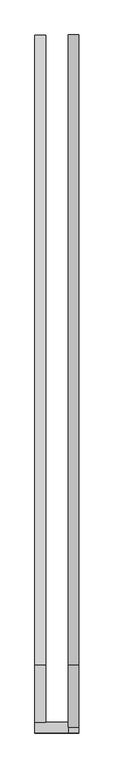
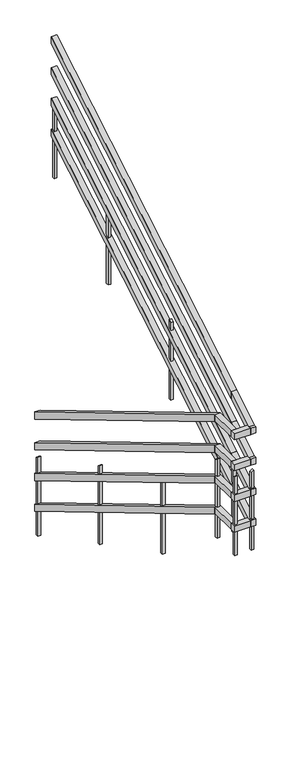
"""IFC4 building model written with IfcOpenShell, lengths in millimetres: railing geometry, RL780-금속재 난간."""

from ifc_helpers import new_model, si_unit, frame, origin, place, context, project, spatial, polyline, outline, extrude, faceted_brep, source, transform, mapped, element, save


def railing_63d092a0(model_context):
    return source(origin(), model_context, "Body", "SolidModel", [
        faceted_brep([(1249.8430136, 5200.0, 5271.4285714), (1299.8430136, 5200.0, 5271.4285714), (1299.8430136, 5200.0, 5201.5491284), (1249.8430136, 5200.0, 5201.5491284), (1249.8430136, 2328.5714286, 6985.7142857), (1249.8430136, 2328.5714286, 6915.8348427), (1299.8430136, 2328.5714286, 6915.8348427), (1299.8430136, 2328.5714286, 6985.7142857)], [[[0, 1, 2, 3]], [[4, 5, 6, 7]], [[1, 0, 4, 7]], [[2, 1, 7, 6]], [[3, 2, 6, 5]], [[0, 3, 5, 4]]]),
        faceted_brep([(1249.8430136, 5200.0, 4971.4285714), (1299.8430136, 5200.0, 4971.4285714), (1299.8430136, 5200.0, 4901.5491284), (1249.8430136, 5200.0, 4901.5491284), (1249.8430136, 2328.5714286, 6685.7142857), (1249.8430136, 2328.5714286, 6615.8348427), (1299.8430136, 2328.5714286, 6615.8348427), (1299.8430136, 2328.5714286, 6685.7142857)], [[[0, 1, 2, 3]], [[4, 5, 6, 7]], [[1, 0, 4, 7]], [[2, 1, 7, 6]], [[3, 2, 6, 5]], [[0, 3, 5, 4]]]),
        faceted_brep([(1249.8430136, 5200.0, 4671.4285714), (1299.8430136, 5200.0, 4671.4285714), (1299.8430136, 5200.0, 4601.5491284), (1249.8430136, 5200.0, 4601.5491284), (1249.8430136, 2328.5714286, 6385.7142857), (1249.8430136, 2328.5714286, 6315.8348427), (1299.8430136, 2328.5714286, 6315.8348427), (1299.8430136, 2328.5714286, 6385.7142857)], [[[0, 1, 2, 3]], [[4, 5, 6, 7]], [[1, 0, 4, 7]], [[2, 1, 7, 6]], [[3, 2, 6, 5]], [[0, 3, 5, 4]]]),
        faceted_brep([(1249.8430136, 5200.0, 4371.4285714), (1299.8430136, 5200.0, 4371.4285714), (1299.8430136, 5200.0, 4301.5491284), (1249.8430136, 5200.0, 4301.5491284), (1249.8430136, 2328.5714286, 6085.7142857), (1249.8430136, 2328.5714286, 6015.8348427), (1299.8430136, 2328.5714286, 6015.8348427), (1299.8430136, 2328.5714286, 6085.7142857)], [[[0, 1, 2, 3]], [[4, 5, 6, 7]], [[1, 0, 4, 7]], [[2, 1, 7, 6]], [[3, 2, 6, 5]], [[0, 3, 5, 4]]]),
        faceted_brep([(1249.8430136, 2328.5714286, 6985.7142857), (1299.8430136, 2328.5714286, 6985.7142857), (1299.8430136, 2328.5714286, 6925.7142857), (1249.8430136, 2328.5714286, 6925.7142857), (1249.8430136, 2071.0869752, 6985.7142857), (1249.8430136, 2071.0869752, 6925.7142857), (1299.8430136, 2071.0869752, 6925.7142857), (1299.8430136, 2071.0869752, 6985.7142857)], [[[0, 1, 2, 3]], [[4, 5, 6, 7]], [[1, 0, 4, 7]], [[2, 1, 7, 6]], [[3, 2, 6, 5]], [[0, 3, 5, 4]]]),
        faceted_brep([(1249.8430136, 2021.0869752, 6985.7142857), (1249.8430136, 2071.0869752, 6985.7142857), (1249.8430136, 2071.0869752, 6925.7142857), (1249.8430136, 2021.0869752, 6925.7142857), (1400.6430136, 2021.0869752, 6985.7142857), (1400.6430136, 2021.0869752, 6925.7142857), (1400.6430136, 2071.0869752, 6925.7142857), (1400.6430136, 2071.0869752, 6985.7142857)], [[[0, 1, 2, 3]], [[4, 5, 6, 7]], [[1, 0, 4, 7]], [[2, 1, 7, 6]], [[3, 2, 6, 5]], [[0, 3, 5, 4]]]),
        faceted_brep([(1450.6430136, 2021.0869752, 6985.7142857), (1400.6430136, 2021.0869752, 6985.7142857), (1400.6430136, 2021.0869752, 6925.7142857), (1450.6430136, 2021.0869752, 6925.7142857), (1450.6430136, 2046.0869752, 6985.7142857), (1400.6430136, 2046.0869752, 6985.7142857), (1400.6430136, 2062.8685715, 6925.7142857), (1450.6430136, 2328.5714286, 7157.1428571), (1450.6430136, 2328.5714286, 7086.9587743), (1400.6430136, 2328.5714286, 7086.9587743), (1400.6430136, 2328.5714286, 7157.1428571), (1450.6430136, 2062.8685715, 6925.7142857)], [[[0, 1, 2, 3]], [[1, 0, 4, 5]], [[2, 1, 5, 6]], [[7, 8, 9, 10]], [[5, 4, 7, 10]], [[6, 5, 10, 9]], [[3, 2, 6, 11]], [[0, 3, 11, 4]], [[11, 6, 9, 8]], [[4, 11, 8, 7]]]),
        faceted_brep([(1450.6430136, 2328.5714286, 7157.1428571), (1400.6430136, 2328.5714286, 7157.1428571), (1400.6430136, 2328.5714286, 7087.2634141), (1450.6430136, 2328.5714286, 7087.2634141), (1450.6430136, 5200.0, 8871.4285714), (1450.6430136, 5200.0, 8801.5491284), (1400.6430136, 5200.0, 8801.5491284), (1400.6430136, 5200.0, 8871.4285714)], [[[0, 1, 2, 3]], [[4, 5, 6, 7]], [[1, 0, 4, 7]], [[2, 1, 7, 6]], [[3, 2, 6, 5]], [[0, 3, 5, 4]]]),
        faceted_brep([(1249.8430136, 2328.5714286, 6685.7142857), (1299.8430136, 2328.5714286, 6685.7142857), (1299.8430136, 2328.5714286, 6625.7142857), (1249.8430136, 2328.5714286, 6625.7142857), (1249.8430136, 2071.0869752, 6685.7142857), (1249.8430136, 2071.0869752, 6625.7142857), (1299.8430136, 2071.0869752, 6625.7142857), (1299.8430136, 2071.0869752, 6685.7142857)], [[[0, 1, 2, 3]], [[4, 5, 6, 7]], [[1, 0, 4, 7]], [[2, 1, 7, 6]], [[3, 2, 6, 5]], [[0, 3, 5, 4]]]),
        faceted_brep([(1249.8430136, 2021.0869752, 6685.7142857), (1249.8430136, 2071.0869752, 6685.7142857), (1249.8430136, 2071.0869752, 6625.7142857), (1249.8430136, 2021.0869752, 6625.7142857), (1400.6430136, 2021.0869752, 6685.7142857), (1400.6430136, 2021.0869752, 6625.7142857), (1400.6430136, 2071.0869752, 6625.7142857), (1400.6430136, 2071.0869752, 6685.7142857)], [[[0, 1, 2, 3]], [[4, 5, 6, 7]], [[1, 0, 4, 7]], [[2, 1, 7, 6]], [[3, 2, 6, 5]], [[0, 3, 5, 4]]]),
        faceted_brep([(1450.6430136, 2021.0869752, 6685.7142857), (1400.6430136, 2021.0869752, 6685.7142857), (1400.6430136, 2021.0869752, 6625.7142857), (1450.6430136, 2021.0869752, 6625.7142857), (1450.6430136, 2046.0869752, 6685.7142857), (1400.6430136, 2046.0869752, 6685.7142857), (1400.6430136, 2062.8685715, 6625.7142857), (1450.6430136, 2328.5714286, 6857.1428571), (1450.6430136, 2328.5714286, 6786.9587743), (1400.6430136, 2328.5714286, 6786.9587743), (1400.6430136, 2328.5714286, 6857.1428571), (1450.6430136, 2062.8685715, 6625.7142857)], [[[0, 1, 2, 3]], [[1, 0, 4, 5]], [[2, 1, 5, 6]], [[7, 8, 9, 10]], [[5, 4, 7, 10]], [[6, 5, 10, 9]], [[3, 2, 6, 11]], [[0, 3, 11, 4]], [[11, 6, 9, 8]], [[4, 11, 8, 7]]]),
        faceted_brep([(1450.6430136, 2328.5714286, 6857.1428571), (1400.6430136, 2328.5714286, 6857.1428571), (1400.6430136, 2328.5714286, 6787.2634141), (1450.6430136, 2328.5714286, 6787.2634141), (1450.6430136, 5200.0, 8571.4285714), (1450.6430136, 5200.0, 8501.5491284), (1400.6430136, 5200.0, 8501.5491284), (1400.6430136, 5200.0, 8571.4285714)], [[[0, 1, 2, 3]], [[4, 5, 6, 7]], [[1, 0, 4, 7]], [[2, 1, 7, 6]], [[3, 2, 6, 5]], [[0, 3, 5, 4]]]),
        faceted_brep([(1249.8430136, 2328.5714286, 6385.7142857), (1299.8430136, 2328.5714286, 6385.7142857), (1299.8430136, 2328.5714286, 6325.7142857), (1249.8430136, 2328.5714286, 6325.7142857), (1249.8430136, 2071.0869752, 6385.7142857), (1249.8430136, 2071.0869752, 6325.7142857), (1299.8430136, 2071.0869752, 6325.7142857), (1299.8430136, 2071.0869752, 6385.7142857)], [[[0, 1, 2, 3]], [[4, 5, 6, 7]], [[1, 0, 4, 7]], [[2, 1, 7, 6]], [[3, 2, 6, 5]], [[0, 3, 5, 4]]]),
        faceted_brep([(1249.8430136, 2021.0869752, 6385.7142857), (1249.8430136, 2071.0869752, 6385.7142857), (1249.8430136, 2071.0869752, 6325.7142857), (1249.8430136, 2021.0869752, 6325.7142857), (1400.6430136, 2021.0869752, 6385.7142857), (1400.6430136, 2021.0869752, 6325.7142857), (1400.6430136, 2071.0869752, 6325.7142857), (1400.6430136, 2071.0869752, 6385.7142857)], [[[0, 1, 2, 3]], [[4, 5, 6, 7]], [[1, 0, 4, 7]], [[2, 1, 7, 6]], [[3, 2, 6, 5]], [[0, 3, 5, 4]]]),
        faceted_brep([(1450.6430136, 2021.0869752, 6385.7142857), (1400.6430136, 2021.0869752, 6385.7142857), (1400.6430136, 2021.0869752, 6325.7142857), (1450.6430136, 2021.0869752, 6325.7142857), (1450.6430136, 2046.0869752, 6385.7142857), (1400.6430136, 2046.0869752, 6385.7142857), (1400.6430136, 2062.8685715, 6325.7142857), (1450.6430136, 2328.5714286, 6557.1428571), (1450.6430136, 2328.5714286, 6486.9587743), (1400.6430136, 2328.5714286, 6486.9587743), (1400.6430136, 2328.5714286, 6557.1428571), (1450.6430136, 2062.8685715, 6325.7142857)], [[[0, 1, 2, 3]], [[1, 0, 4, 5]], [[2, 1, 5, 6]], [[7, 8, 9, 10]], [[5, 4, 7, 10]], [[6, 5, 10, 9]], [[3, 2, 6, 11]], [[0, 3, 11, 4]], [[11, 6, 9, 8]], [[4, 11, 8, 7]]]),
        faceted_brep([(1450.6430136, 2328.5714286, 6557.1428571), (1400.6430136, 2328.5714286, 6557.1428571), (1400.6430136, 2328.5714286, 6487.2634141), (1450.6430136, 2328.5714286, 6487.2634141), (1450.6430136, 5200.0, 8271.4285714), (1450.6430136, 5200.0, 8201.5491284), (1400.6430136, 5200.0, 8201.5491284), (1400.6430136, 5200.0, 8271.4285714)], [[[0, 1, 2, 3]], [[4, 5, 6, 7]], [[1, 0, 4, 7]], [[2, 1, 7, 6]], [[3, 2, 6, 5]], [[0, 3, 5, 4]]]),
        faceted_brep([(1249.8430136, 2328.5714286, 6085.7142857), (1299.8430136, 2328.5714286, 6085.7142857), (1299.8430136, 2328.5714286, 6025.7142857), (1249.8430136, 2328.5714286, 6025.7142857), (1249.8430136, 2071.0869752, 6085.7142857), (1249.8430136, 2071.0869752, 6025.7142857), (1299.8430136, 2071.0869752, 6025.7142857), (1299.8430136, 2071.0869752, 6085.7142857)], [[[0, 1, 2, 3]], [[4, 5, 6, 7]], [[1, 0, 4, 7]], [[2, 1, 7, 6]], [[3, 2, 6, 5]], [[0, 3, 5, 4]]]),
        faceted_brep([(1249.8430136, 2021.0869752, 6085.7142857), (1249.8430136, 2071.0869752, 6085.7142857), (1249.8430136, 2071.0869752, 6025.7142857), (1249.8430136, 2021.0869752, 6025.7142857), (1400.6430136, 2021.0869752, 6085.7142857), (1400.6430136, 2021.0869752, 6025.7142857), (1400.6430136, 2071.0869752, 6025.7142857), (1400.6430136, 2071.0869752, 6085.7142857)], [[[0, 1, 2, 3]], [[4, 5, 6, 7]], [[1, 0, 4, 7]], [[2, 1, 7, 6]], [[3, 2, 6, 5]], [[0, 3, 5, 4]]]),
        faceted_brep([(1450.6430136, 2021.0869752, 6085.7142857), (1400.6430136, 2021.0869752, 6085.7142857), (1400.6430136, 2021.0869752, 6025.7142857), (1450.6430136, 2021.0869752, 6025.7142857), (1450.6430136, 2046.0869752, 6085.7142857), (1400.6430136, 2046.0869752, 6085.7142857), (1400.6430136, 2062.8685715, 6025.7142857), (1450.6430136, 2328.5714286, 6257.1428571), (1450.6430136, 2328.5714286, 6186.9587743), (1400.6430136, 2328.5714286, 6186.9587743), (1400.6430136, 2328.5714286, 6257.1428571), (1450.6430136, 2062.8685715, 6025.7142857)], [[[0, 1, 2, 3]], [[1, 0, 4, 5]], [[2, 1, 5, 6]], [[7, 8, 9, 10]], [[5, 4, 7, 10]], [[6, 5, 10, 9]], [[3, 2, 6, 11]], [[0, 3, 11, 4]], [[11, 6, 9, 8]], [[4, 11, 8, 7]]]),
        faceted_brep([(1450.6430136, 2328.5714286, 6257.1428571), (1400.6430136, 2328.5714286, 6257.1428571), (1400.6430136, 2328.5714286, 6187.2634141), (1450.6430136, 2328.5714286, 6187.2634141), (1450.6430136, 5200.0, 7971.4285714), (1450.6430136, 5200.0, 7901.5491284), (1400.6430136, 5200.0, 7901.5491284), (1400.6430136, 5200.0, 7971.4285714)], [[[0, 1, 2, 3]], [[4, 5, 6, 7]], [[1, 0, 4, 7]], [[2, 1, 7, 6]], [[3, 2, 6, 5]], [[0, 3, 5, 4]]]),
        extrude(outline(polyline([(4341.0714286, 7755.6684657), (4341.0714286, 6985.7142857), (4316.0714286, 6985.7142857), (4316.0714286, 7739.7601057), (4341.0714286, 7755.6684657)])), frame((1413.1430136, 0.0, 0.0), z_axis=(1.0, 0.0, 0.0), x_axis=(0.0, 1.0, 0.0)), (0.0, 0.0, 1.0), 25.0),
        extrude(outline(polyline([(3341.0714286, 7241.3827514), (3341.0714286, 6471.4285714), (3316.0714286, 6471.4285714), (3316.0714286, 7225.4743914), (3341.0714286, 7241.3827514)])), frame((1413.1430136, 0.0, 0.0), z_axis=(1.0, 0.0, 0.0), x_axis=(0.0, 1.0, 0.0)), (0.0, 0.0, 1.0), 25.0),
        extrude(outline(polyline([(3212.5, 5854.04582), (3212.5, 5100.0), (3187.5, 5100.0), (3187.5, 5869.95418), (3212.5, 5854.04582)])), frame((1262.3430136, 0.0, 0.0), z_axis=(1.0, 0.0, 0.0), x_axis=(0.0, 1.0, 0.0)), (0.0, 0.0, 1.0), 25.0),
        extrude(outline(polyline([(4212.5, 5339.7601057), (4212.5, 4585.7142857), (4187.5, 4585.7142857), (4187.5, 5355.6684657), (4212.5, 5339.7601057)])), frame((1262.3430136, 0.0, 0.0), z_axis=(1.0, 0.0, 0.0), x_axis=(0.0, 1.0, 0.0)), (0.0, 0.0, 1.0), 25.0),
        extrude(outline(polyline([(2341.0714286, 6555.6684657), (2341.0714286, 5785.7142857), (2316.0714286, 5785.7142857), (2316.0714286, 6539.7601057), (2341.0714286, 6555.6684657)])), frame((1413.1430136, 0.0, 0.0), z_axis=(1.0, 0.0, 0.0), x_axis=(0.0, 1.0, 0.0)), (0.0, 0.0, 1.0), 25.0),
        extrude(outline(polyline([(6539.7601057, 1413.1430136), (5785.7142857, 1413.1430136), (5785.7142857, 1438.1430136), (6555.6684657, 1438.1430136), (6539.7601057, 1413.1430136)])), frame((0.0, 2033.5869752, 0.0), z_axis=(0.0, 1.0, 0.0), x_axis=(0.0, 0.0, 1.0)), (0.0, 0.0, 1.0), 25.0),
        extrude(outline(polyline([(2058.5869752, 6539.7601057), (2058.5869752, 5785.7142857), (2033.5869752, 5785.7142857), (2033.5869752, 6555.6684657), (2058.5869752, 6539.7601057)])), frame((1262.3430136, 0.0, 0.0), z_axis=(1.0, 0.0, 0.0), x_axis=(0.0, 1.0, 0.0)), (0.0, 0.0, 1.0), 25.0),
        extrude(outline(polyline([(2341.0714286, 6539.7601057), (2341.0714286, 5785.7142857), (2316.0714286, 5785.7142857), (2316.0714286, 6555.6684657), (2341.0714286, 6539.7601057)])), frame((1262.3430136, 0.0, 0.0), z_axis=(1.0, 0.0, 0.0), x_axis=(0.0, 1.0, 0.0)), (0.0, 0.0, 1.0), 25.0),
        extrude(outline(polyline([(5200.0, 8269.95418), (5200.0, 7500.0), (5175.0, 7500.0), (5175.0, 8254.04582), (5200.0, 8269.95418)])), frame((1413.1430136, 0.0, 0.0), z_axis=(1.0, 0.0, 0.0), x_axis=(0.0, 1.0, 0.0)), (0.0, 0.0, 1.0), 25.0),
        extrude(outline(polyline([(5200.0, 4825.4743914), (5200.0, 4071.4285714), (5175.0, 4071.4285714), (5175.0, 4841.3827514), (5200.0, 4825.4743914)])), frame((1262.3430136, 0.0, 0.0), z_axis=(1.0, 0.0, 0.0), x_axis=(0.0, 1.0, 0.0)), (0.0, 0.0, 1.0), 25.0),
    ])


if __name__ == "__main__":
    model = new_model("IFC4")
    model_context = context("Model", 3, world=origin())
    ifc_project = project(units=[si_unit("LENGTHUNIT", "METRE", prefix="MILLI")], contexts=[model_context])
    site = spatial("IfcSite", under=ifc_project)
    building = spatial("IfcBuilding", under=site)
    placement = place(None, origin())
    railing_shape = railing_63d092a0(model_context)
    element("IfcRailing", 1, ObjectType="RL780-금속재 난간", at=placement, inside=building, context=model_context, shape_type="MappedRepresentation", body=[
        mapped(railing_shape, transform((0.0, 0.0, 0.0), x_axis=(1.0, 0.0, 0.0), y_axis=(0.0, 1.0, 0.0), z_axis=(0.0, 0.0, 1.0))),
    ])
    save(model, "model.ifc")
